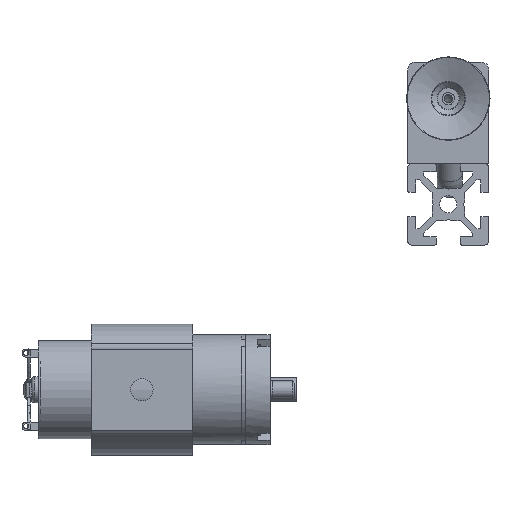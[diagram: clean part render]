
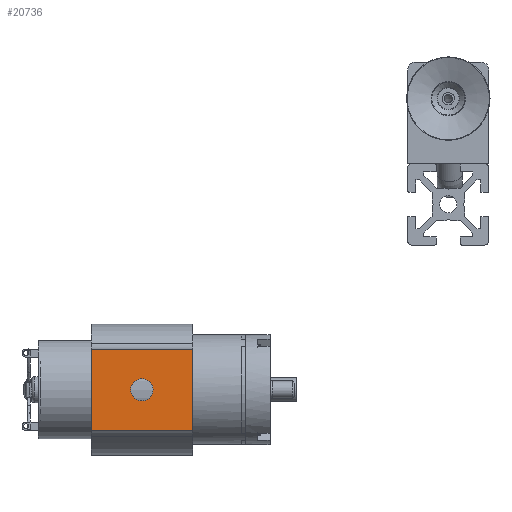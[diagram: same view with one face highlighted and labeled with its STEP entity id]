
A CAD part, front view. The second image highlights one B-rep face of the part: STEP entity #20736.
In plain terms, the highlighted planar face has unit normal (0, -1, 0).
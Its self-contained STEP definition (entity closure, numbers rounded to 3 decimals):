
#2080=FACE_BOUND('',#7442,.T.);
#2458=PLANE('',#23346);
#3610=LINE('',#82105,#4782);
#3628=LINE('',#82207,#4800);
#3630=LINE('',#82212,#4802);
#3631=LINE('',#82214,#4803);
#4782=VECTOR('',#29024,10.);
#4800=VECTOR('',#29096,10.);
#4802=VECTOR('',#29102,10.);
#4803=VECTOR('',#29105,10.);
#6270=FACE_OUTER_BOUND('',#7441,.T.);
#7441=EDGE_LOOP('',(#18634,#18635,#18636,#18637));
#7442=EDGE_LOOP('',(#18638));
#8478=CIRCLE('',#23338,2.75);
#10303=VERTEX_POINT('',#82102);
#10304=VERTEX_POINT('',#82104);
#10323=VERTEX_POINT('',#82194);
#10325=VERTEX_POINT('',#82205);
#10326=VERTEX_POINT('',#82210);
#13068=EDGE_CURVE('',#10303,#10304,#3610,.T.);
#13096=EDGE_CURVE('',#10323,#10323,#8478,.T.);
#13103=EDGE_CURVE('',#10303,#10325,#3628,.T.);
#13106=EDGE_CURVE('',#10325,#10326,#3630,.T.);
#13107=EDGE_CURVE('',#10304,#10326,#3631,.T.);
#18634=ORIENTED_EDGE('',*,*,#13103,.T.);
#18635=ORIENTED_EDGE('',*,*,#13106,.T.);
#18636=ORIENTED_EDGE('',*,*,#13107,.F.);
#18637=ORIENTED_EDGE('',*,*,#13068,.F.);
#18638=ORIENTED_EDGE('',*,*,#13096,.T.);
#20736=ADVANCED_FACE('',(#6270,#2080),#2458,.T.);
#23338=AXIS2_PLACEMENT_3D('',#82195,#29080,#29081);
#23346=AXIS2_PLACEMENT_3D('',#82213,#29103,#29104);
#29024=DIRECTION('',(0.,0.,1.));
#29080=DIRECTION('center_axis',(0.,1.,0.));
#29081=DIRECTION('ref_axis',(1.,0.,0.));
#29096=DIRECTION('',(1.,0.,0.));
#29102=DIRECTION('',(0.,0.,1.));
#29103=DIRECTION('center_axis',(0.,-1.,0.));
#29104=DIRECTION('ref_axis',(1.,0.,0.));
#29105=DIRECTION('',(1.,0.,0.));
#82102=CARTESIAN_POINT('',(-10.,-24.006,0.));
#82104=CARTESIAN_POINT('',(-10.,-24.006,25.));
#82105=CARTESIAN_POINT('',(-10.,-24.006,0.));
#82194=CARTESIAN_POINT('',(-2.75,-24.006,12.5));
#82195=CARTESIAN_POINT('Origin',(0.,-24.006,12.5));
#82205=CARTESIAN_POINT('',(10.,-24.006,0.));
#82207=CARTESIAN_POINT('',(-10.,-24.006,0.));
#82210=CARTESIAN_POINT('',(10.,-24.006,25.));
#82212=CARTESIAN_POINT('',(10.,-24.006,0.));
#82213=CARTESIAN_POINT('Origin',(-10.,-24.006,0.));
#82214=CARTESIAN_POINT('',(-10.,-24.006,25.));
